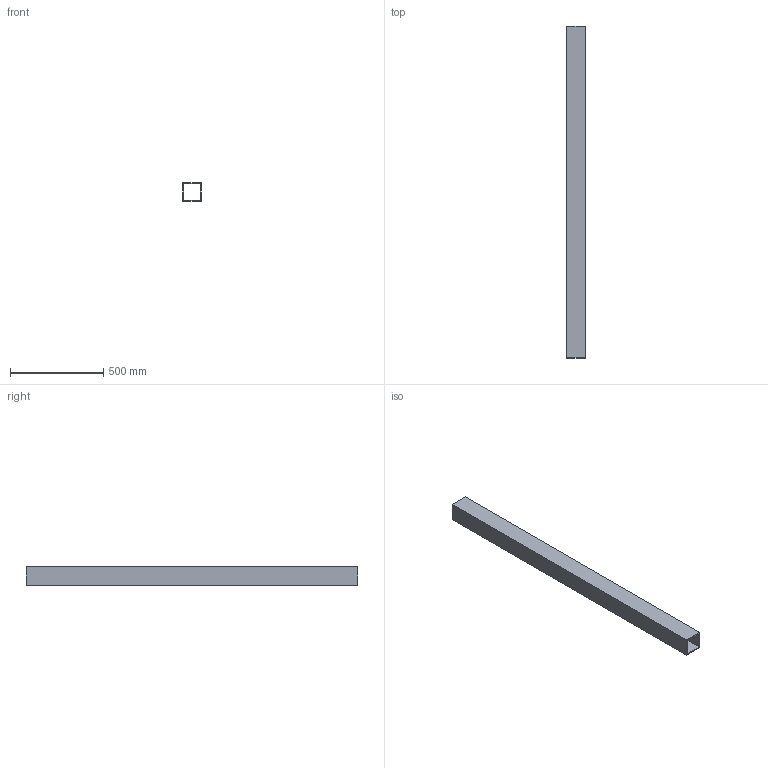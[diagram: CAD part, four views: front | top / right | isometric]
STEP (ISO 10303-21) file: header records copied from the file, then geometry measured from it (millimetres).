
FILE_DESCRIPTION(('Open CASCADE Model'),'2;1');
FILE_NAME('Open CASCADE Shape Model','2026-09-19T12:55:23',('Author'),( 'Open CASCADE'),'Open CASCADE STEP processor 7.9','Open CASCADE 7.9' ,'Unknown');
FILE_SCHEMA(('AUTOMOTIVE_DESIGN { 1 0 10303 214 1 1 1 1 }'));
Length unit declared in the file: millimetre
Products named in the file (1): Open CASCADE STEP translator 7.9 416
Bounding box: 100 x 1780 x 100 mm (x, y, z)
Volume: 4015680 mm3; surface area: 1343072 mm2
Topology: 1 solids, 1 shells, 10 faces, 24 edges, 16 vertices
Faces by surface type: plane 10
Entity records: 614 total; most frequent: CARTESIAN_POINT 99, DIRECTION 94, LINE 72, VECTOR 72, ORIENTED_EDGE 48, PCURVE 48, DEFINITIONAL_REPRESENTATION 48, EDGE_CURVE 24
